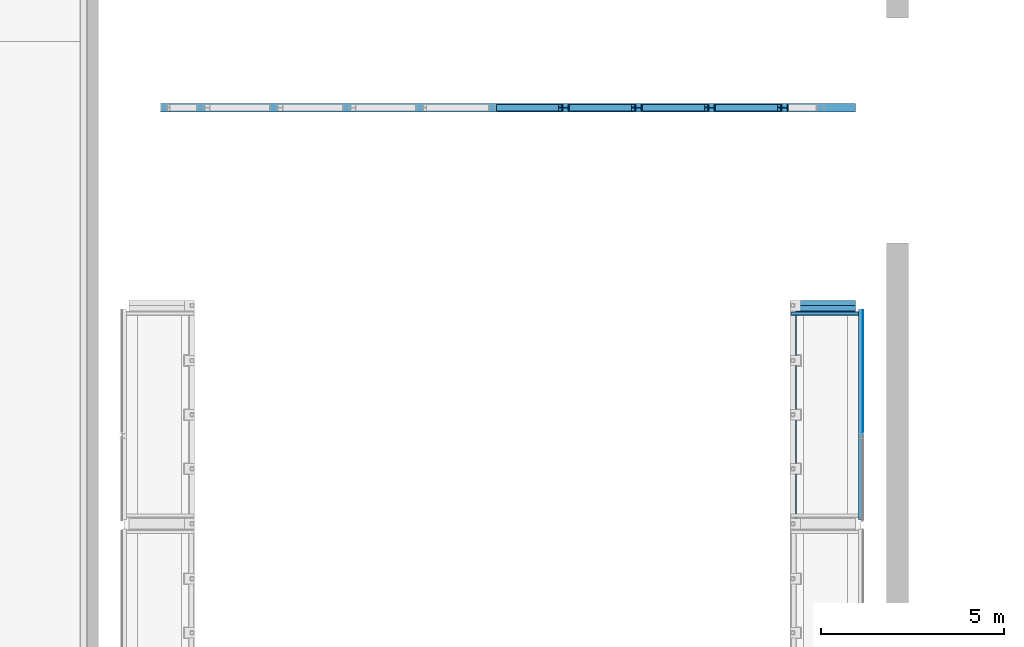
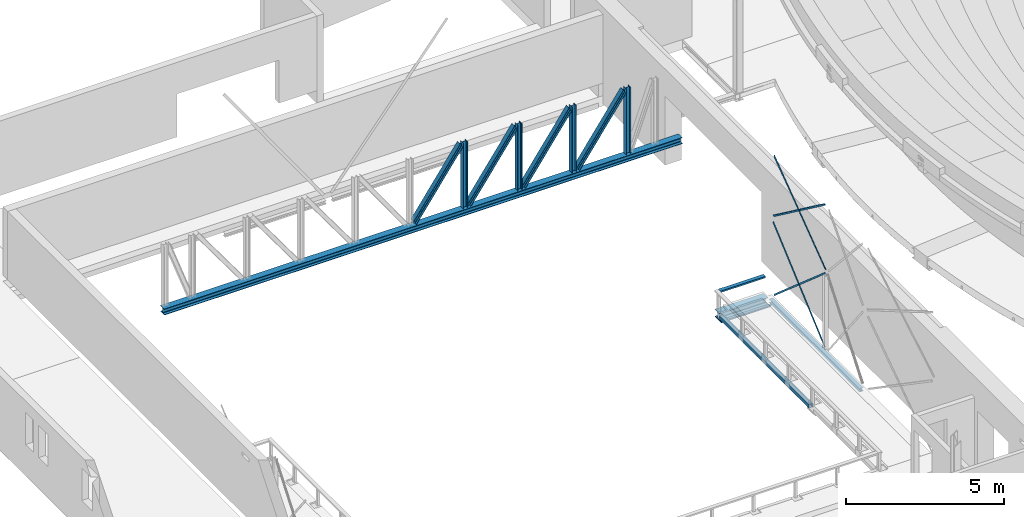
# One storey, part 20 of 68: 18 beams.
"""IFC2X3 building model written with IfcOpenShell, lengths in millimetres."""

from ifc_helpers import new_model, entity, si_unit, converted_unit, derived_unit, direction, frame, frame_2d, origin, place, context, subcontext, project, spatial, polyline, circle_curve, parameter, trimmed, segment, composite_curve, rectangle, i_section, outline, extrude, clip, halfspace, source, transform, mapped, material, material_list, type_object, type_shapes, element, save


model = new_model("IFC2X3")

# Units and contexts
model_context = context("Model", 3, precision=0.01, world=origin(), true_north=direction((6.12303176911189e-17, 1.0)))
body_context = subcontext(model_context, "Body", "Model", "MODEL_VIEW")
ifc_project = project(units=[si_unit("LENGTHUNIT", "METRE", prefix="MILLI"), si_unit("AREAUNIT", "SQUARE_METRE", prefix="MILLI"), si_unit("VOLUMEUNIT", "CUBIC_METRE"), converted_unit("PLANEANGLEUNIT", "DEGREE", entity("IfcRatioMeasure", 0.0174532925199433), si_unit("PLANEANGLEUNIT", "RADIAN"), dimensions=[0, 0, 0, 0, 0, 0, 0]), si_unit("MASSUNIT", "GRAM", prefix="KILO"), derived_unit("MASSDENSITYUNIT", [(si_unit("MASSUNIT", "GRAM", prefix="KILO"), 1), (si_unit("LENGTHUNIT", "METRE"), -3)]), derived_unit("MOMENTOFINERTIAUNIT", [(si_unit("LENGTHUNIT", "METRE"), 4)]), si_unit("TIMEUNIT", "SECOND"), si_unit("FREQUENCYUNIT", "HERTZ"), si_unit("THERMODYNAMICTEMPERATUREUNIT", "DEGREE_CELSIUS"), derived_unit("THERMALTRANSMITTANCEUNIT", [(si_unit("MASSUNIT", "GRAM", prefix="KILO"), 1), (si_unit("THERMODYNAMICTEMPERATUREUNIT", "KELVIN"), -1), (si_unit("TIMEUNIT", "SECOND"), -3)]), derived_unit("VOLUMETRICFLOWRATEUNIT", [(si_unit("LENGTHUNIT", "METRE"), 3), (si_unit("TIMEUNIT", "SECOND"), -1)]), si_unit("ELECTRICCURRENTUNIT", "AMPERE"), si_unit("ELECTRICVOLTAGEUNIT", "VOLT"), si_unit("POWERUNIT", "WATT"), si_unit("FORCEUNIT", "NEWTON", prefix="KILO"), si_unit("ILLUMINANCEUNIT", "LUX"), si_unit("LUMINOUSFLUXUNIT", "LUMEN"), si_unit("LUMINOUSINTENSITYUNIT", "CANDELA"), derived_unit("USERDEFINED", [(si_unit("MASSUNIT", "GRAM", prefix="KILO"), -1), (si_unit("LENGTHUNIT", "METRE"), -2), (si_unit("TIMEUNIT", "SECOND"), 3), (si_unit("LUMINOUSFLUXUNIT", "LUMEN"), 1)]), derived_unit("LINEARVELOCITYUNIT", [(si_unit("LENGTHUNIT", "METRE"), 1), (si_unit("TIMEUNIT", "SECOND"), -1)]), si_unit("PRESSUREUNIT", "PASCAL"), derived_unit("USERDEFINED", [(si_unit("LENGTHUNIT", "METRE"), -2), (si_unit("MASSUNIT", "GRAM", prefix="KILO"), 1), (si_unit("TIMEUNIT", "SECOND"), -2)]), derived_unit("LINEARFORCEUNIT", [(si_unit("MASSUNIT", "GRAM", prefix="KILO"), 1), (si_unit("LENGTHUNIT", "METRE"), 1), (si_unit("TIMEUNIT", "SECOND"), -2), (si_unit("LENGTHUNIT", "METRE"), -1)]), derived_unit("PLANARFORCEUNIT", [(si_unit("MASSUNIT", "GRAM", prefix="KILO"), 1), (si_unit("LENGTHUNIT", "METRE"), 1), (si_unit("TIMEUNIT", "SECOND"), -2), (si_unit("LENGTHUNIT", "METRE"), -2)])], contexts=[model_context])

# Site, building, storey
site_placement = place(None, origin())
site = spatial("IfcSite", under=ifc_project, at=site_placement, Name="Theater aan de Parade", CompositionType="ELEMENT")
building_placement = place(site_placement, origin())
building = spatial("IfcBuilding", under=site, at=building_placement, Name="Theater aan de Parade", CompositionType="ELEMENT")
storey_placement = place(building_placement, frame((0.0, 0.0, 8750.0)))
storey = spatial("IfcBuildingStorey", under=building, at=storey_placement, Name="02 tweede verdieping", CompositionType="ELEMENT", Elevation=8750.0)

# Beams
ifc_material_1 = material(Name="00_PBT_MAT_staal_S355")
beam_type_1 = type_object("IfcBeamType", Name="28_PBT_SF_staal_H-profiel:S355_HE180A", PredefinedType="NOTDEFINED")
for number, where, z_axis, x_axis in (
    (1, (28095.8569884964, 34918.2922984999, 2720.0), (1.0, 0.0, 0.0), (0.0, 0.0, 1.0)),
    (2, (30087.8569884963, 34918.2922984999, 2720.0), (1.0, 0.0, 0.0), (0.0, 0.0, 1.0)),
    (3, (32079.8569884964, 34918.2922984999, 2720.0), (1.0, 0.0, 0.0), (0.0, 0.0, 1.0)),
):
    element("IfcBeam", number, at=place(storey_placement, frame(where, z_axis=z_axis, x_axis=x_axis)), inside=storey, type_object=beam_type_1, material=ifc_material_1, Name="28_PBT_SF_staal_H-profiel:S355_HE180A", ObjectType="28_PBT_SF_staal_H-profiel:S355_HE180A", context=body_context, shape_type="SweptSolid", body=[
        extrude(i_section(OverallWidth=179.999999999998, OverallDepth=171.0, WebThickness=6.00000000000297, FlangeThickness=9.49999999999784, FilletRadius=15.0000000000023, at=frame_2d((2.16715534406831e-12, -2.16715534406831e-12), x_axis=(0.0, 1.0))), frame((132.699999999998, 0.0, 0.0), z_axis=(1.0, 0.0, 0.0), x_axis=(0.0, 0.0, -1.0)), (0.0, 0.0, 1.0), 2554.59999999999),
    ])
beam_1_placement = place(storey_placement, frame((34071.8569884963, 34918.2922984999, 2720.0), z_axis=(1.0, 0.0, 0.0), x_axis=(0.0, 0.0, 1.0)))
element("IfcBeam", 4, at=beam_1_placement, inside=storey, type_object=beam_type_1, material=ifc_material_1, Name="28_PBT_SF_staal_H-profiel:S355_HE180A", ObjectType="28_PBT_SF_staal_H-profiel:S355_HE180A", context=body_context, shape_type="SweptSolid", body=[
    extrude(i_section(OverallWidth=179.999999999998, OverallDepth=171.0, WebThickness=6.00000000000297, FlangeThickness=9.49999999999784, FilletRadius=15.0000000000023, at=frame_2d((-2.16715534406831e-12, -6.49436060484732e-12), x_axis=(0.0, 1.0))), frame((132.699999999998, 0.0, 0.0), z_axis=(1.0, 0.0, 0.0), x_axis=(0.0, 0.0, -1.0)), (0.0, 0.0, 1.0), 2554.59999999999),
])
beam_2_placement = place(storey_placement, frame((26103.8569884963, 34918.2922984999, 2720.0), z_axis=(0.816775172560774, 0.0, -0.57695607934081), x_axis=(0.57695607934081, 0.0, 0.816775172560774)))
element("IfcBeam", 5, at=beam_2_placement, inside=storey, type_object=beam_type_1, material=ifc_material_1, Name="28_PBT_SF_staal_H-profiel:S355_HE180A", ObjectType="28_PBT_SF_staal_H-profiel:S355_HE180A", context=body_context, shape_type="Clipping", body=[
    clip(clip(extrude(i_section(OverallWidth=180.000000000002, OverallDepth=170.999999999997, WebThickness=6.00000000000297, FlangeThickness=9.49999999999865, FilletRadius=14.9999999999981, at=frame_2d((0.0, -6.49436060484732e-12), x_axis=(0.0, 1.0))), frame((220.014999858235, 0.0, 0.0), z_axis=(1.0, 0.0, 0.0), x_axis=(0.0, 0.0, -1.0)), (0.0, 0.0, 1.0), 3012.57249695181), halfspace(frame((152.919428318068, -110.0, 21.1468305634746), z_axis=(-0.57695607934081, 0.0, -0.816775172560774), x_axis=(0.816775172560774, 0.0, -0.57695607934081)), False)), halfspace(frame((1180.47820562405, 110.0, 1475.82341289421), z_axis=(0.57695607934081, 0.0, 0.816775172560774), x_axis=(0.816775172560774, 0.0, -0.57695607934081)), False)),
])
beam_3_placement = place(storey_placement, frame((28095.8569884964, 34918.2922984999, 2720.0), z_axis=(0.816775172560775, 0.0, -0.576956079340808), x_axis=(0.576956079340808, 0.0, 0.816775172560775)))
element("IfcBeam", 6, at=beam_3_placement, inside=storey, type_object=beam_type_1, material=ifc_material_1, Name="28_PBT_SF_staal_H-profiel:S355_HE180A", ObjectType="28_PBT_SF_staal_H-profiel:S355_HE180A", context=body_context, shape_type="Clipping", body=[
    clip(clip(extrude(i_section(OverallWidth=180.000000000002, OverallDepth=170.999999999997, WebThickness=6.00000000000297, FlangeThickness=9.49999999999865, FilletRadius=14.9999999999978, at=frame_2d((-6.25277607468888e-13, -2.16715534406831e-12), x_axis=(0.0, 1.0))), frame((220.014999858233, 0.0, 0.0), z_axis=(1.0, 0.0, 0.0), x_axis=(0.0, 0.0, -1.0)), (0.0, 0.0, 1.0), 3012.57249695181), halfspace(frame((152.919428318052, -110.0, 21.1468305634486), z_axis=(-0.576956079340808, 0.0, -0.816775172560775), x_axis=(0.816775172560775, 0.0, -0.576956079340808)), False)), halfspace(frame((1180.47820562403, 110.0, 1475.82341289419), z_axis=(0.576956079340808, 0.0, 0.816775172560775), x_axis=(0.816775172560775, 0.0, -0.576956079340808)), False)),
])
beam_4_placement = place(storey_placement, frame((30087.8569884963, 34918.2922984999, 2720.0), z_axis=(0.816775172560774, 0.0, -0.57695607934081), x_axis=(0.57695607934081, 0.0, 0.816775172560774)))
element("IfcBeam", 7, at=beam_4_placement, inside=storey, type_object=beam_type_1, material=ifc_material_1, Name="28_PBT_SF_staal_H-profiel:S355_HE180A", ObjectType="28_PBT_SF_staal_H-profiel:S355_HE180A", context=body_context, shape_type="Clipping", body=[
    clip(clip(extrude(i_section(OverallWidth=180.000000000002, OverallDepth=170.999999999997, WebThickness=6.00000000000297, FlangeThickness=9.49999999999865, FilletRadius=14.9999999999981, at=frame_2d((-6.03961325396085e-12, -2.16715534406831e-12), x_axis=(0.0, 1.0))), frame((220.014999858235, 0.0, 0.0), z_axis=(1.0, 0.0, 0.0), x_axis=(0.0, 0.0, -1.0)), (0.0, 0.0, 1.0), 3012.57249695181), halfspace(frame((152.919428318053, -110.0, 21.1468305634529), z_axis=(-0.57695607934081, 0.0, -0.816775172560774), x_axis=(0.816775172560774, 0.0, -0.57695607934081)), False)), halfspace(frame((1180.47820562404, 110.0, 1475.82341289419), z_axis=(0.57695607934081, 0.0, 0.816775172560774), x_axis=(0.816775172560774, 0.0, -0.57695607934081)), False)),
])
beam_5_placement = place(storey_placement, frame((32079.8569884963, 34918.2922984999, 2720.0), z_axis=(0.816775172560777, 0.0, -0.576956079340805), x_axis=(0.576956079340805, 0.0, 0.816775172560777)))
element("IfcBeam", 8, at=beam_5_placement, inside=storey, type_object=beam_type_1, material=ifc_material_1, Name="28_PBT_SF_staal_H-profiel:S355_HE180A", ObjectType="28_PBT_SF_staal_H-profiel:S355_HE180A", context=body_context, shape_type="Clipping", body=[
    clip(clip(extrude(i_section(OverallWidth=180.000000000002, OverallDepth=170.999999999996, WebThickness=6.00000000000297, FlangeThickness=9.4999999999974, FilletRadius=14.9999999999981, at=frame_2d((-3.01980662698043e-12, -2.16715534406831e-12), x_axis=(0.0, 1.0))), frame((220.014999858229, 0.0, 0.0), z_axis=(1.0, 0.0, 0.0), x_axis=(0.0, 0.0, -1.0)), (0.0, 0.0, 1.0), 3012.5724969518), halfspace(frame((152.919428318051, -110.0, 21.1468305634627), z_axis=(-0.576956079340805, 0.0, -0.816775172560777), x_axis=(0.816775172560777, 0.0, -0.576956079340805)), False)), halfspace(frame((1180.47820562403, 110.0, 1475.8234128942), z_axis=(0.576956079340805, 0.0, 0.816775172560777), x_axis=(0.816775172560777, 0.0, -0.576956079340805)), False)),
])
ifc_material_2 = material(Name="00_PBT_MAT_Lucht")
ifc_material_list = material_list([ifc_material_1, ifc_material_2])
beam_type_2 = type_object("IfcBeamType", Name="28_PBT_SF_staal_H-profiel_met_ondergelaste_strip (void):S355_HE280B + ondergelaste strip d=12", PredefinedType="BEAM", material=ifc_material_list)
shared_shape = source(origin(), body_context, "Body", "SweptSolid", [
    extrude(outline(composite_curve([segment(polyline([(122.0, -140.0), (140.0, -140.0)]), True, "CONTINUOUS"), segment(polyline([(140.0, -140.0), (140.0, 140.0)]), True, "CONTINUOUS"), segment(polyline([(140.0, 140.0), (122.0, 140.0)]), True, "CONTINUOUS"), segment(polyline([(122.0, 140.0), (122.0, 29.2499999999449)]), True, "CONTINUOUS"), segment(trimmed(circle_curve(frame_2d((98.0, 29.2499999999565), x_axis=(1.0, 0.0)), 23.9999999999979), [parameter(269.999999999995)], [parameter(0.0)], True, "PARAMETER"), False, "CONTINUOUS"), segment(polyline([(98.0, 5.2499999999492), (-98.0, 5.25000000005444)]), True, "CONTINUOUS"), segment(trimmed(circle_curve(frame_2d((-98.0, 29.2500000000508), x_axis=(0.0, -1.0)), 23.9999999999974), [parameter(269.999999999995)], [parameter(0.0)], True, "PARAMETER"), False, "CONTINUOUS"), segment(polyline([(-122.0, 29.2500000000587), (-122.0, 140.0)]), True, "CONTINUOUS"), segment(polyline([(-122.0, 140.0), (-140.0, 140.0)]), True, "CONTINUOUS"), segment(polyline([(-140.0, 140.0), (-140.0, -140.0)]), True, "CONTINUOUS"), segment(polyline([(-140.0, -140.0), (-122.0, -140.0)]), True, "CONTINUOUS"), segment(polyline([(-122.0, -140.0), (-122.0, -29.249999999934)]), True, "CONTINUOUS"), segment(trimmed(circle_curve(frame_2d((-98.0, -29.2499999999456), x_axis=(-1.0, 0.0)), 23.9999999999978), [parameter(269.999999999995)], [parameter(0.0)], True, "PARAMETER"), False, "CONTINUOUS"), segment(polyline([(-98.0, -5.24999999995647), (98.0, -5.25000000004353)]), True, "CONTINUOUS"), segment(trimmed(circle_curve(frame_2d((98.0, -29.2500000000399), x_axis=(0.0, 1.0)), 23.9999999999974), [parameter(269.999999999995)], [parameter(0.0)], True, "PARAMETER"), False, "CONTINUOUS"), segment(polyline([(122.0, -29.2500000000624), (122.0, -140.0)]), True, "CONTINUOUS")], self_intersect=False)), frame((36013.8581300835, 29518.2922984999, 8540.0), z_axis=(-1.0, 0.0, 0.0), x_axis=(0.0, 0.0, -1.0)), (0.0, 0.0, 1.0), 1767.00115629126),
    extrude(rectangle(XDim=12.0000000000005, YDim=400.0, at=frame_2d((-1.08268949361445e-12, 6.50857145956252e-12), x_axis=(1.0, 0.0))), frame((36012.8581300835, 29453.2922984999, 8394.0), z_axis=(-1.0, 0.0, 0.0), x_axis=(0.0, 0.0, -1.0)), (0.0, 0.0, 1.0), 1765.00115629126),
])
type_shapes(beam_type_2, [shared_shape])
beam_6_placement = place(storey_placement, frame((0.0, 0.0, -8750.0)))
element("IfcBeam", 9, at=beam_6_placement, inside=storey, type_object=beam_type_2, material=ifc_material_1, Name="28_PBT_SF_staal_H-profiel_met_ondergelaste_strip (void):S355_HE280B + ondergelaste strip d=12", ObjectType="28_PBT_SF_staal_H-profiel_met_ondergelaste_strip (void):S355_HE280B + ondergelaste strip d=12", context=body_context, shape_type="MappedRepresentation", body=[
    mapped(shared_shape, transform((0.0, 0.0, 0.0), scale=1.0)),
])
beam_type_3 = type_object("IfcBeamType", Name="28_PBT_SF_staal_koker:S355_K150x150x10", PredefinedType="NOTDEFINED")
beam_7_placement = place(storey_placement, frame((34321.8569737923, 29378.2922984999, 0.0), z_axis=(0.0, 0.0, 1.0), x_axis=(0.0, -1.0, 0.0)))
element("IfcBeam", 10, at=beam_7_placement, inside=storey, type_object=beam_type_3, material=ifc_material_1, Name="28_PBT_SF_staal_koker:S355_K150x150x10", ObjectType="28_PBT_SF_staal_koker:S355_K150x150x10", context=body_context, shape_type="SweptSolid", body=[
    extrude(outline(composite_curve([segment(polyline([(-60.0, -75.0), (60.0, -75.0)]), True, "CONTINUOUS"), segment(trimmed(circle_curve(frame_2d((60.0, -60.0), x_axis=(0.0, 1.0)), 15.0), [parameter(180.0)], [parameter(270.0)], True, "PARAMETER"), True, "CONTINUOUS"), segment(polyline([(75.0, -60.0), (75.0, 60.0)]), True, "CONTINUOUS"), segment(trimmed(circle_curve(frame_2d((60.0, 60.0), x_axis=(0.0, 1.0)), 15.0), [parameter(270.0)], [parameter(360.0)], True, "PARAMETER"), True, "CONTINUOUS"), segment(polyline([(60.0, 75.0), (-60.0, 75.0)]), True, "CONTINUOUS"), segment(trimmed(circle_curve(frame_2d((-60.0, 60.0), x_axis=(0.0, 1.0)), 15.0), [parameter(0.0)], [parameter(90.0000000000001)], True, "PARAMETER"), True, "CONTINUOUS"), segment(polyline([(-75.0, 60.0), (-75.0, -60.0)]), True, "CONTINUOUS"), segment(trimmed(circle_curve(frame_2d((-60.0, -60.0), x_axis=(0.0, 1.0)), 15.0), [parameter(90.0)], [parameter(180.0)], True, "PARAMETER"), True, "CONTINUOUS")], self_intersect=False), holes=[composite_curve([segment(polyline([(65.0, 55.0), (65.0, -55.0)]), True, "CONTINUOUS"), segment(trimmed(circle_curve(frame_2d((55.0, -55.0), x_axis=(0.0, 1.0)), 10.0), [parameter(180.0)], [parameter(270.0)], True, "PARAMETER"), False, "CONTINUOUS"), segment(polyline([(55.0, -65.0), (-55.0, -65.0)]), True, "CONTINUOUS"), segment(trimmed(circle_curve(frame_2d((-55.0, -55.0), x_axis=(0.0, 1.0)), 10.0), [parameter(90.0)], [parameter(180.0)], True, "PARAMETER"), False, "CONTINUOUS"), segment(polyline([(-65.0, -55.0), (-65.0, 55.0)]), True, "CONTINUOUS"), segment(trimmed(circle_curve(frame_2d((-55.0, 55.0), x_axis=(0.0, 1.0)), 10.0), [parameter(4.07110999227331e-13)], [parameter(90.0000000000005)], True, "PARAMETER"), False, "CONTINUOUS"), segment(polyline([(-55.0, 65.0), (55.0, 65.0)]), True, "CONTINUOUS"), segment(trimmed(circle_curve(frame_2d((55.0, 55.0), x_axis=(0.0, 1.0)), 10.0), [parameter(270.0)], [parameter(0.0)], True, "PARAMETER"), False, "CONTINUOUS")], self_intersect=False)]), frame((0.0, 0.0, -225.0), z_axis=(1.0, 0.0, 0.0), x_axis=(0.0, 0.0, 1.0)), (0.0, 0.0, 1.0), 5669.99999999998),
])
beam_type_4 = type_object("IfcBeamType", Name="28_PBT_SF_staal_H-profiel:S355_HE140A", PredefinedType="NOTDEFINED")
beam_8_placement = place(storey_placement, frame((36153.8581300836, 29408.2922984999, 0.0), z_axis=(0.0, 0.0, 1.0), x_axis=(0.0, -1.0, 0.0)))
element("IfcBeam", 11, at=beam_8_placement, inside=storey, type_object=beam_type_4, material=ifc_material_1, Name="28_PBT_SF_staal_H-profiel:S355_HE140A", ObjectType="28_PBT_SF_staal_H-profiel:S355_HE140A", context=body_context, shape_type="SweptSolid", body=[
    extrude(i_section(OverallWidth=139.999999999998, OverallDepth=133.0, WebThickness=5.50000000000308, FlangeThickness=8.49999999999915, FilletRadius=12.0000000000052, at=frame_2d((0.0, 6.49436060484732e-12), x_axis=(0.0, 1.0))), frame((0.0, 0.0, -233.500000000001), z_axis=(1.0, 0.0, 0.0), x_axis=(0.0, 0.0, -1.0)), (0.0, 0.0, 1.0), 5729.99999999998),
])
beam_type_5 = type_object("IfcBeamType", Name="28_PBT_SF_staal_UNP-profiel:S355_UNP140", PredefinedType="NOTDEFINED")
beam_9_placement = place(storey_placement, frame((36013.8574772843, 29588.2922984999, 0.0), z_axis=(0.0, 0.0, 1.0), x_axis=(-1.0, 0.0, 0.0)))
element("IfcBeam", 12, at=beam_9_placement, inside=storey, type_object=beam_type_5, material=ifc_material_1, Name="28_PBT_SF_staal_UNP-profiel:S355_UNP140", ObjectType="28_PBT_SF_staal_UNP-profiel:S355_UNP140", context=body_context, shape_type="SweptSolid", body=[
    extrude(outline(composite_curve([segment(polyline([(-33.1002123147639, -70.0), (26.8997876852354, -70.0)]), True, "CONTINUOUS"), segment(polyline([(26.8997876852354, -70.0), (26.8997876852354, -67.0159744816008)]), True, "CONTINUOUS"), segment(trimmed(circle_curve(frame_2d((21.8997876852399, -67.0159744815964), x_axis=(1.0, 0.0)), 4.9999999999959), [parameter(0.0)], [parameter(85.4260787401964)], True, "PARAMETER"), True, "CONTINUOUS"), segment(polyline([(22.2985137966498, -62.0318980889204), (-16.8976645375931, -58.8962038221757)]), True, "CONTINUOUS"), segment(trimmed(circle_curve(frame_2d((-16.1002123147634, -48.9280510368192), x_axis=(-0.0797452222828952, -0.996815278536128)), 10.0), [parameter(274.573921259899)], [parameter(0.0)], True, "PARAMETER"), False, "CONTINUOUS"), segment(polyline([(-26.1002123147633, -48.9280510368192), (-26.1002123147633, 48.9280510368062)]), True, "CONTINUOUS"), segment(trimmed(circle_curve(frame_2d((-16.1002123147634, 48.9280510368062), x_axis=(-1.0, 0.0)), 10.0000000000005), [parameter(274.573921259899)], [parameter(0.0)], True, "PARAMETER"), False, "CONTINUOUS"), segment(polyline([(-16.8976645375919, 58.8962038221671), (22.2985137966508, 62.0318980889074)]), True, "CONTINUOUS"), segment(trimmed(circle_curve(frame_2d((21.8997876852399, 67.0159744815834), x_axis=(0.0797452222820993, -0.996815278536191)), 4.99999999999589), [parameter(0.0)], [parameter(85.4260787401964)], True, "PARAMETER"), True, "CONTINUOUS"), segment(polyline([(26.8997876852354, 67.0159744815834), (26.8997876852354, 70.0)]), True, "CONTINUOUS"), segment(polyline([(26.8997876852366, 70.0), (-33.1002123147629, 70.0)]), True, "CONTINUOUS"), segment(polyline([(-33.1002123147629, 70.0), (-33.1002123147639, -70.0)]), True, "CONTINUOUS")], self_intersect=False)), frame((0.0, 0.0, 636.899787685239), z_axis=(1.0, 0.0, 0.0), x_axis=(0.0, 0.0, -1.0)), (0.0, 0.0, 1.0), 1647.00000000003),
])
beam_type_6 = type_object("IfcBeamType", Name="28_PBT_SF_staal_H-profiel:S355_HE240B", PredefinedType="NOTDEFINED")
beam_10_placement = place(storey_placement, frame((17049.8569884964, 34918.2922984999, 2720.0)))
element("IfcBeam", 13, at=beam_10_placement, inside=storey, type_object=beam_type_6, material=ifc_material_1, Name="28_PBT_SF_staal_H-profiel:S355_HE240B", ObjectType="28_PBT_SF_staal_H-profiel:S355_HE240B", context=body_context, shape_type="SweptSolid", body=[
    extrude(i_section(OverallWidth=240.000000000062, OverallDepth=240.0, WebThickness=9.99999999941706, FlangeThickness=16.9999999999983, FilletRadius=21.0000000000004, at=frame_2d((-3.25428572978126e-12, 6.49436060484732e-12), x_axis=(0.0, 1.0))), frame((0.0, 0.0, 0.0), z_axis=(1.0, 0.0, 0.0), x_axis=(0.0, 0.0, -1.0)), (0.0, 0.0, 1.0), 18964.0),
])
ifc_material_3 = material(Name="00_PBT_MAT_staal")
beam_type_7 = type_object("IfcBeamType", Name="28_PBT_SF_staal_strip:strip 6x60", PredefinedType="NOTDEFINED")
beam_11_placement = place(storey_placement, frame((36204.3581300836, 26064.7298795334, 2826.85157459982), z_axis=(0.0, 0.655932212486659, 0.75481980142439), x_axis=(0.0, 0.75481980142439, -0.655932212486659)))
element("IfcBeam", 14, at=beam_11_placement, inside=storey, type_object=beam_type_7, material=ifc_material_3, Name="28_PBT_SF_staal_strip:strip 6x60", ObjectType="28_PBT_SF_staal_strip:strip 6x60", context=body_context, shape_type="SweptSolid", body=[
    extrude(rectangle(XDim=60.0000000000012, YDim=5.99999999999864, at=frame_2d((-8.18900502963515e-13, 4.33142410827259e-12), x_axis=(1.0, 0.0))), frame((0.0, -3.0, 0.0), z_axis=(1.0, 0.0, 0.0), x_axis=(0.0, 0.0, -1.0)), (0.0, 0.0, 1.0), 4300.0),
])
beam_12_placement = place(storey_placement, frame((36204.3581300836, 25999.5009991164, 2941.8382351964), z_axis=(0.0, -0.595470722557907, 0.803377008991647), x_axis=(0.0, 0.803377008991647, 0.595470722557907)))
element("IfcBeam", 15, at=beam_12_placement, inside=storey, type_object=beam_type_7, material=ifc_material_3, Name="28_PBT_SF_staal_strip:strip 6x60", ObjectType="28_PBT_SF_staal_strip:strip 6x60", context=body_context, shape_type="SweptSolid", body=[
    extrude(rectangle(XDim=60.0, YDim=5.99999999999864, at=frame_2d((-1.28963506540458e-12, 4.33142410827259e-12), x_axis=(1.0, 0.0))), frame((57.3428601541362, -3.0, 0.0), z_axis=(1.0, 0.0, 0.0), x_axis=(0.0, 0.0, -1.0)), (0.0, 0.0, 1.0), 4065.70018006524),
])
beam_13_placement = place(storey_placement, frame((36213.3581300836, 29374.1201370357, 2789.71557493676), z_axis=(0.0, -0.655932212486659, 0.75481980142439), x_axis=(0.0, -0.75481980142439, -0.655932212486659)))
element("IfcBeam", 16, at=beam_13_placement, inside=storey, type_object=beam_type_7, material=ifc_material_3, Name="28_PBT_SF_staal_strip:strip 6x60", ObjectType="28_PBT_SF_staal_strip:strip 6x60", context=body_context, shape_type="SweptSolid", body=[
    extrude(rectangle(XDim=60.0000000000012, YDim=6.00000000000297, at=frame_2d((-1.63780100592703e-12, 0.0), x_axis=(1.0, 0.0))), frame((0.0, -3.0, 0.0), z_axis=(1.0, 0.0, 0.0), x_axis=(0.0, 0.0, -1.0)), (0.0, 0.0, 1.0), 4340.00000000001),
])
beam_14_placement = place(storey_placement, frame((36219.3581300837, 29492.3176128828, 2934.28921801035), z_axis=(0.0, 0.596199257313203, 0.802836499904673), x_axis=(0.0, -0.802836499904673, 0.596199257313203)))
element("IfcBeam", 17, at=beam_14_placement, inside=storey, type_object=beam_type_7, material=ifc_material_3, Name="28_PBT_SF_staal_strip:strip 6x60", ObjectType="28_PBT_SF_staal_strip:strip 6x60", context=body_context, shape_type="SweptSolid", body=[
    extrude(rectangle(XDim=60.0000000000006, YDim=6.00000000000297, at=frame_2d((8.72191208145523e-13, 2.16582307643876e-12), x_axis=(1.0, 0.0))), frame((167.04713196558, -3.0, 0.0), z_axis=(1.0, 0.0, 0.0), x_axis=(0.0, 0.0, -1.0)), (0.0, 0.0, 1.0), 4052.5334044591),
])
ifc_material_4 = material(Name="00_PBT_MAT_staal_S235")
beam_type_8 = type_object("IfcBeamType", Name="28_PBT_SF_staal_koker:S235_K50x90x5", PredefinedType="NOTDEFINED")
beam_15_placement = place(storey_placement, frame((36083.8581300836, 29298.2922984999, 0.0), z_axis=(0.0, 0.0, 1.0), x_axis=(-1.0, 0.0, 0.0)))
element("IfcBeam", 18, at=beam_15_placement, inside=storey, type_object=beam_type_8, material=ifc_material_4, Name="28_PBT_SF_staal_koker:S235_K50x90x5", ObjectType="28_PBT_SF_staal_koker:S235_K50x90x5", context=body_context, shape_type="SweptSolid", body=[
    extrude(outline(composite_curve([segment(trimmed(circle_curve(frame_2d((-37.5000000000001, -17.5000000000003), x_axis=(1.0, 0.0)), 7.5), [parameter(180.0)], [parameter(270.0)], True, "PARAMETER"), True, "CONTINUOUS"), segment(polyline([(-37.5000000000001, -25.0), (37.5000000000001, -25.0)]), True, "CONTINUOUS"), segment(trimmed(circle_curve(frame_2d((37.5000000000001, -17.5000000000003), x_axis=(1.0, 0.0)), 7.5), [parameter(270.0)], [parameter(0.0)], True, "PARAMETER"), True, "CONTINUOUS"), segment(polyline([(45.0, -17.5000000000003), (45.0, 17.4999999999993)]), True, "CONTINUOUS"), segment(trimmed(circle_curve(frame_2d((37.5000000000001, 17.4999999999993), x_axis=(1.0, 0.0)), 7.5), [parameter(3.56222124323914e-13)], [parameter(90.0000000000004)], True, "PARAMETER"), True, "CONTINUOUS"), segment(polyline([(37.5000000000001, 25.0), (-37.5000000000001, 25.0)]), True, "CONTINUOUS"), segment(trimmed(circle_curve(frame_2d((-37.5000000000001, 17.4999999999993), x_axis=(1.0, 0.0)), 7.5), [parameter(90.0000000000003)], [parameter(180.0)], True, "PARAMETER"), True, "CONTINUOUS"), segment(polyline([(-45.0, 17.4999999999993), (-45.0, -17.5000000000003)]), True, "CONTINUOUS")], self_intersect=False), holes=[composite_curve([segment(trimmed(circle_curve(frame_2d((35.0, 15.0), x_axis=(1.0, 0.0)), 5.0), [parameter(360.0)], [parameter(90.0000000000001)], True, "PARAMETER"), False, "CONTINUOUS"), segment(polyline([(40.0, 15.0), (40.0, -15.0)]), True, "CONTINUOUS"), segment(trimmed(circle_curve(frame_2d((35.0, -15.0), x_axis=(1.0, 0.0)), 5.0), [parameter(269.999999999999)], [parameter(360.0)], True, "PARAMETER"), False, "CONTINUOUS"), segment(polyline([(35.0, -20.0), (-35.0, -20.0)]), True, "CONTINUOUS"), segment(trimmed(circle_curve(frame_2d((-35.0, -15.0), x_axis=(1.0, 0.0)), 5.0), [parameter(180.0)], [parameter(270.0)], True, "PARAMETER"), False, "CONTINUOUS"), segment(polyline([(-40.0, -15.0), (-40.0, 15.0)]), True, "CONTINUOUS"), segment(trimmed(circle_curve(frame_2d((-35.0, 15.0), x_axis=(1.0, 0.0)), 5.0), [parameter(90.0)], [parameter(180.0)], True, "PARAMETER"), False, "CONTINUOUS"), segment(polyline([(-35.0, 20.0), (35.0, 20.0)]), True, "CONTINUOUS")], self_intersect=False)]), frame((0.0, 0.0, -325.0), z_axis=(1.0, 0.0, 0.0), x_axis=(0.0, 1.0, 0.0)), (0.0, 0.0, 1.0), 1837.00115629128),
])

save(model, "model.ifc")
